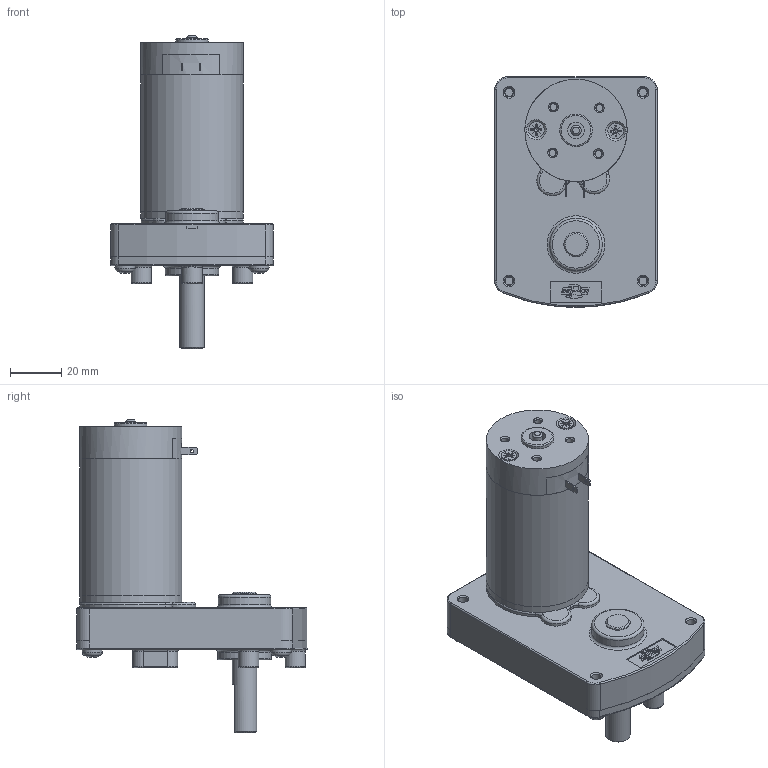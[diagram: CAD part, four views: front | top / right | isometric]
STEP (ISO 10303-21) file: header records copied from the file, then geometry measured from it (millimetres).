
FILE_DESCRIPTION(/* description */ (''),/* implementation_level */ '2;1');
FILE_NAME(/* name */ 'C:\Users\byjeong\Desktop\3D도면\SR45BT.stp',/* time_stamp */ '2015-03-31T15:03:28+09:00',/* author */ ('byjeong'),/* organization */ (''),/* preprocessor_version */ 'ST-DEVELOPER v15.6',/* originating_system */ 'Autodesk Inventor 2015',/* authorisation */ '');
FILE_SCHEMA (('AUTOMOTIVE_DESIGN { 1 0 10303 214 3 1 1 }'));
Length unit declared in the file: millimetre
Products named in the file (10): SR BOX ASSY; RM4TYPE_BRUSH_BRAKET_TERMINAL; RM4TYPE_REAR_HOUSING; REAR_HOUSING__ASS'Y_TERMINAL; RM4TYPE_FRONT_HOUSING_; RM4TYPE_PIPE_HOUSING_pi40XL53.5; RM45TYPE_SHAFT; AS 1427 Z - 미터 M3.5 x 5; RM45ㅁBT; 조립품2
Bounding box: 63.5 x 90.13 x 122.47 mm (x, y, z)
Volume: 71198 mm3; surface area: 59560.4 mm2
Topology: 9 solids, 18 shells, 637 faces, 1560 edges, 995 vertices
Faces by surface type: plane 277, cylinder 159, cone 128, torus 68, sphere 4, bspline 1
Full cylindrical faces by diameter (mm): 1.2 x2, 2.5 x1, 2.7 x4, 2.8 x4, 3 x3, 3.132 x2, 3.4 x7, 3.5 x2, 3.571 x4, 3.6 x6, 3.7 x2, 3.969 x1, 4 x8, 4.4 x6, 4.45 x1, 5 x1, 6.1 x2, 6.5 x1, 6.65 x1, 8 x3, 9.525 x2, 9.528 x1, 9.565 x2, 12.7 x3, 14.3 x3, 16.6 x1, 17.6 x1, 20.5 x1, 21 x1, 23 x1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
Entity records: 17607 total; most frequent: CARTESIAN_POINT 4103, DIRECTION 2875, ORIENTED_EDGE 2510, EDGE_CURVE 1251, AXIS2_PLACEMENT_3D 1185, VERTEX_POINT 887, EDGE_LOOP 842, FACE_OUTER_BOUND 596
